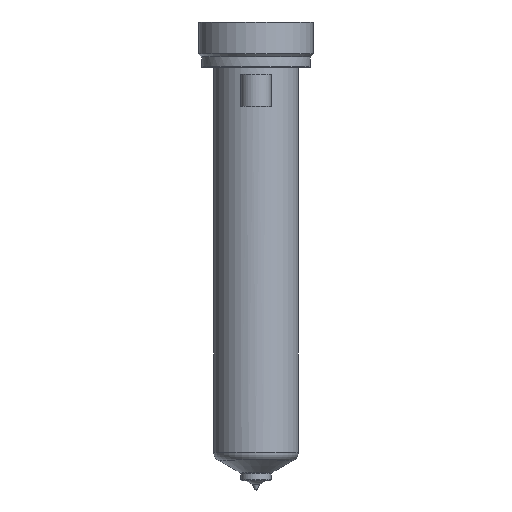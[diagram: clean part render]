
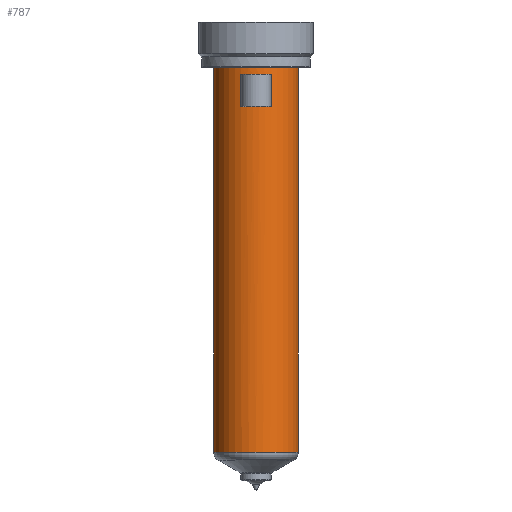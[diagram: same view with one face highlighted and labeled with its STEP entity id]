
A CAD part, top view. The second image highlights one B-rep face of the part: STEP entity #787.
In plain terms, the highlighted cylindrical face has radius 14 mm (diameter 28 mm), a partial arc.
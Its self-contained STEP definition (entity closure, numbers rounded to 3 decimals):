
#195=DIRECTION('',(0.,-1.,0.));
#196=VECTOR('',#195,127.483);
#197=CARTESIAN_POINT('',(14.,0.,0.));
#198=LINE('',#197,#196);
#199=CARTESIAN_POINT('',(0.,-127.483,0.));
#200=DIRECTION('',(0.,1.,0.));
#201=DIRECTION('',(-1.,0.,0.));
#202=AXIS2_PLACEMENT_3D('',#199,#200,#201);
#204=DIRECTION('',(0.,1.,0.));
#205=VECTOR('',#204,127.483);
#206=CARTESIAN_POINT('',(-14.,-127.483,0.));
#207=LINE('',#206,#205);
#208=CARTESIAN_POINT('',(0.,0.,0.));
#209=DIRECTION('',(0.,1.,0.));
#210=DIRECTION('',(-1.,0.,0.));
#211=AXIS2_PLACEMENT_3D('',#208,#209,#210);
#357=DIRECTION('',(0.,-1.,0.));
#358=VECTOR('',#357,10.5);
#359=CARTESIAN_POINT('',(-5.,-2.5,13.077));
#360=LINE('',#359,#358);
#365=CARTESIAN_POINT('',(0.,-13.,0.));
#366=DIRECTION('',(0.,1.,0.));
#367=DIRECTION('',(-0.357,0.,0.934));
#368=AXIS2_PLACEMENT_3D('',#365,#366,#367);
#400=CARTESIAN_POINT('',(0.,-2.5,0.));
#401=DIRECTION('',(0.,-1.,0.));
#402=DIRECTION('',(0.357,0.,0.934));
#403=AXIS2_PLACEMENT_3D('',#400,#401,#402);
#405=DIRECTION('',(0.,-1.,0.));
#406=VECTOR('',#405,10.5);
#407=CARTESIAN_POINT('',(5.,-2.5,13.077));
#408=LINE('',#407,#406);
#466=CARTESIAN_POINT('',(-14.,0.,0.));
#467=CARTESIAN_POINT('',(14.,0.,0.));
#468=VERTEX_POINT('',#466);
#469=VERTEX_POINT('',#467);
#478=CARTESIAN_POINT('',(5.,-2.5,13.077));
#479=VERTEX_POINT('',#478);
#480=CARTESIAN_POINT('',(-5.,-2.5,13.077));
#481=VERTEX_POINT('',#480);
#518=CARTESIAN_POINT('',(14.,-127.483,0.));
#519=VERTEX_POINT('',#518);
#528=CARTESIAN_POINT('',(-14.,-127.483,0.));
#529=VERTEX_POINT('',#528);
#546=CARTESIAN_POINT('',(-5.,-13.,13.077));
#547=CARTESIAN_POINT('',(5.,-13.,13.077));
#548=VERTEX_POINT('',#546);
#549=VERTEX_POINT('',#547);
#765=CARTESIAN_POINT('',(0.,16.4,0.));
#766=DIRECTION('',(0.,-1.,0.));
#767=DIRECTION('',(-1.,0.,0.));
#768=AXIS2_PLACEMENT_3D('',#765,#766,#767);
#769=CYLINDRICAL_SURFACE('',#768,14.);
#770=ORIENTED_EDGE('',*,*,#759,.T.);
#772=ORIENTED_EDGE('',*,*,#771,.F.);
#773=ORIENTED_EDGE('',*,*,#755,.T.);
#774=ORIENTED_EDGE('',*,*,#745,.T.);
#775=EDGE_LOOP('',(#770,#772,#773,#774));
#776=FACE_OUTER_BOUND('',#775,.F.);
#778=ORIENTED_EDGE('',*,*,#777,.T.);
#780=ORIENTED_EDGE('',*,*,#779,.T.);
#782=ORIENTED_EDGE('',*,*,#781,.F.);
#784=ORIENTED_EDGE('',*,*,#783,.T.);
#785=EDGE_LOOP('',(#778,#780,#782,#784));
#786=FACE_BOUND('',#785,.F.);
#787=ADVANCED_FACE('',(#776,#786),#769,.T.);
#203=CIRCLE('',#202,14.);
#212=CIRCLE('',#211,14.);
#369=CIRCLE('',#368,14.);
#404=CIRCLE('',#403,14.);
#745=EDGE_CURVE('',#468,#469,#212,.T.);
#755=EDGE_CURVE('',#529,#468,#207,.T.);
#759=EDGE_CURVE('',#469,#519,#198,.T.);
#771=EDGE_CURVE('',#529,#519,#203,.T.);
#777=EDGE_CURVE('',#481,#548,#360,.T.);
#779=EDGE_CURVE('',#548,#549,#369,.T.);
#781=EDGE_CURVE('',#479,#549,#408,.T.);
#783=EDGE_CURVE('',#479,#481,#404,.T.);
